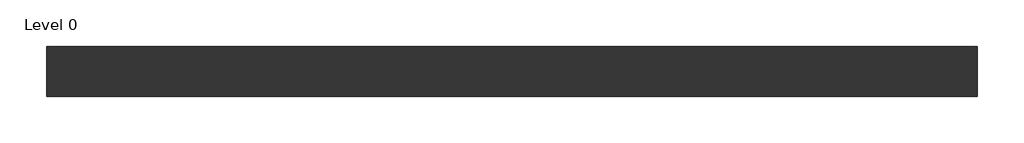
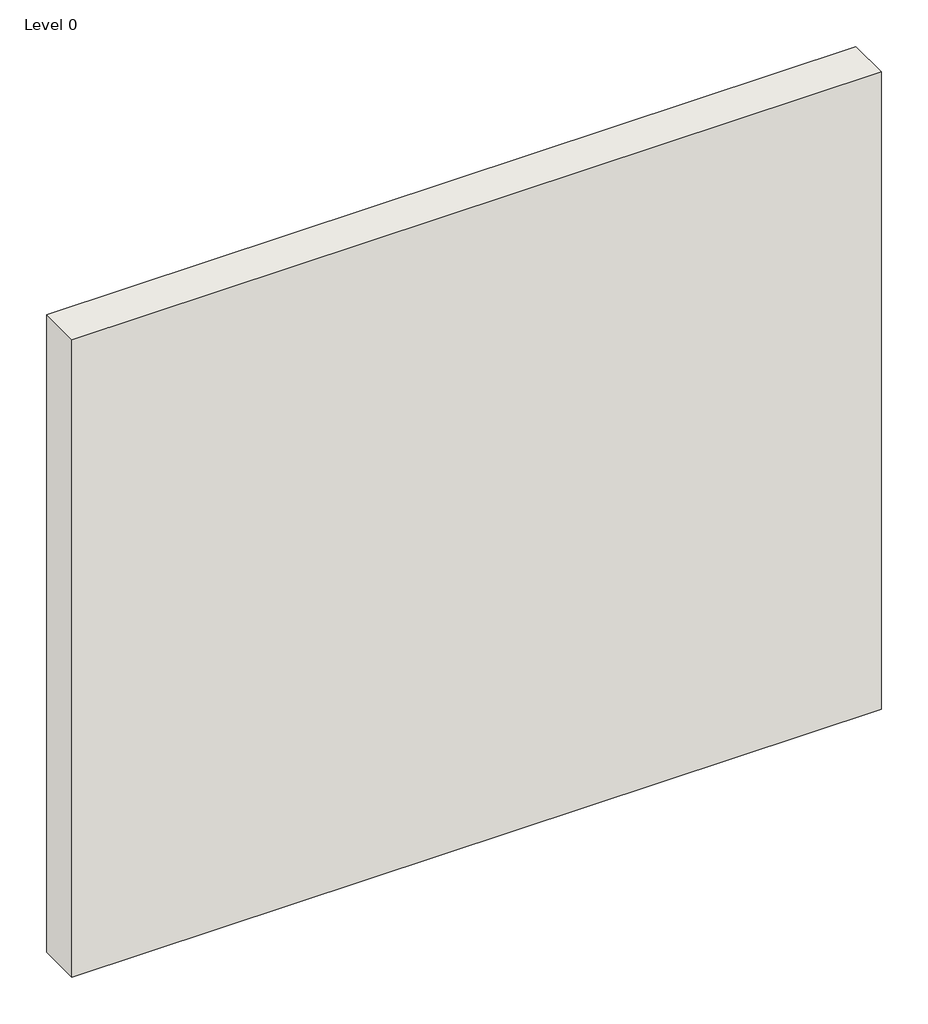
# One storey: 1 wall.
"""IFC4 building model written with IfcOpenShell, lengths in millimetres."""

from ifc_helpers import new_model, si_unit, origin, origin_with_axes, place, context, project, spatial, polyline, outline, extrude, element, save

model = new_model("IFC4")

# Units and contexts
model_context = context("Model", 3, world=origin())
ifc_project = project(units=[si_unit("LENGTHUNIT", "METRE", prefix="MILLI")], contexts=[model_context])

# Site, building, storey
site = spatial("IfcSite", under=ifc_project)
building = spatial("IfcBuilding", under=site)
storey = spatial("IfcBuildingStorey", under=building, Name="Level 0", Elevation=0.0)

# Wall
placement = place(None, origin())
element("IfcWall", 1, ObjectType="A316013 - GypWall QUIET SF", at=placement, inside=storey, context=model_context, shape_type="SweptSolid", body=[
    extrude(outline(polyline([(2116.0807354, 512.7205641), (-883.9192646, 512.7205641), (-883.9192646, 674.7205641), (2116.0807354, 674.7205641), (2116.0807354, 512.7205641)])), origin_with_axes(), (0.0, 0.0, 1.0), 2500.0),
])

save(model, "model.ifc")
